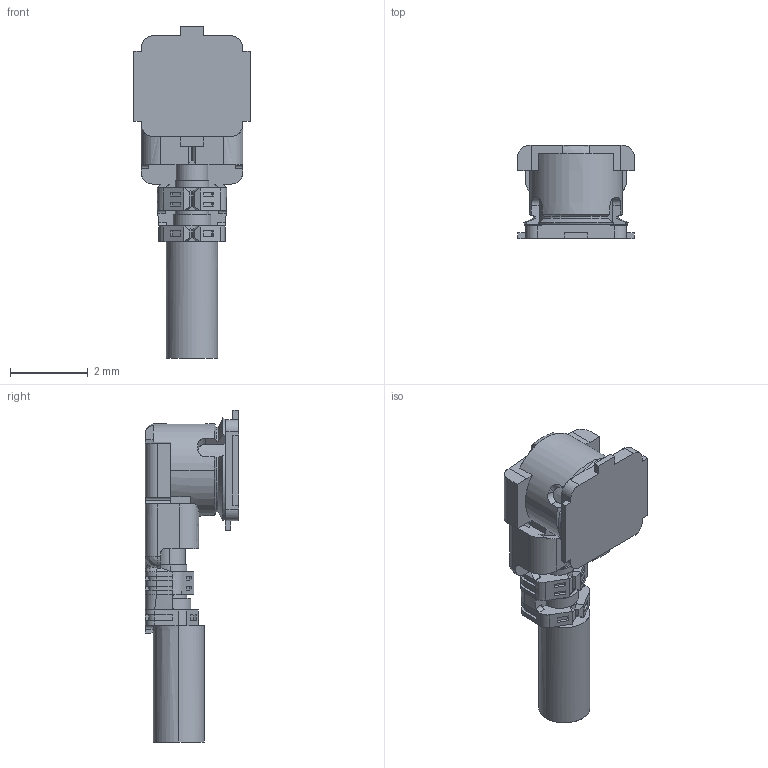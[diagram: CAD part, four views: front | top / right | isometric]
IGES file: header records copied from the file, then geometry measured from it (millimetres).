
Start section: SolidWorks IGES file using analytic representation for surfaces
Global section: file name: C:\3dwork\imaji\00.Web model check\00. New 3D\MHF I\20278-1xxR-32+20279-001E-xxC R15R9 IGES ALL.IGS; native system: SolidWorks 2017; preprocessor: SolidWorks 2017; author: ipxcad-013; date: 180806.095933; units: millimetre
Bounding box: 3 x 2.4 x 8.55 mm (x, y, z)
Surface area: 83.9 mm2 (no closed solid volume)
Topology: 0 solids, 0 shells, 406 faces, 3054 edges, 3047 vertices
Faces by surface type: bspline 292, revolution 114
